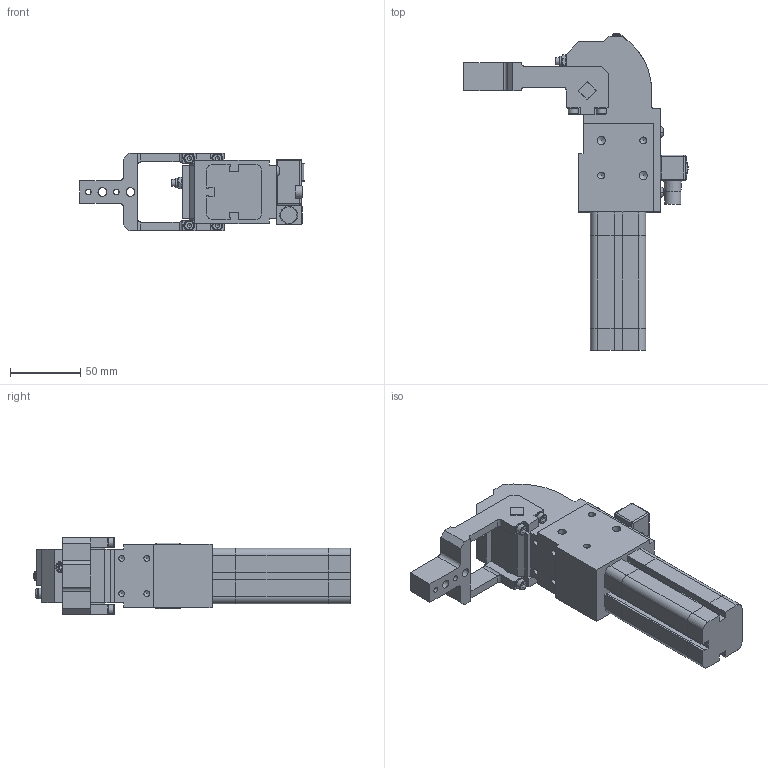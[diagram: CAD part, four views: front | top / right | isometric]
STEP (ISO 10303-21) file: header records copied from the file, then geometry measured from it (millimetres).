
FILE_DESCRIPTION(/* description */ (''),/* implementation_level */ '2;1');
FILE_NAME(/* name */ 'S:\Tom\INVENTOR FILES\AUTOMOTIVE\CLAMPS\XSM 25 HO\SAT FILES\MODEL CYLINDER UPDATE 030217\sats\XSM125_1.stp',/* time_stamp */ '2017-02-06T16:50:57+00:00',/* author */ ('carl'),/* organization */ (''),/* preprocessor_version */ 'ST-DEVELOPER v16.1',/* originating_system */ 'Autodesk Inventor 2016',/* authorisation */ '');
FILE_SCHEMA (('AUTOMOTIVE_DESIGN { 1 0 10303 214 3 1 1 }'));
Length unit declared in the file: millimetre
Products named in the file (4): XSM125_1_1; XSM125_1_2; XSM125_1_3; XSM125_1
Assembly tree (3 placements, depth 2):
  XSM125_1
    XSM125_1_1
    XSM125_1_2
    XSM125_1_3
Bounding box: 159.96 x 226.05 x 55.59 mm (x, y, z)
Volume: 475493 mm3; surface area: 73999.9 mm2
Topology: 3 solids, 4 shells, 461 faces, 1163 edges, 718 vertices
Faces by surface type: plane 314, cylinder 96, cone 29, bspline 8, sphere 8, torus 6
Full cylindrical faces by diameter (mm): 0.7 x4, 4 x7, 4.134 x4, 4.959 x4, 5 x1, 6 x5, 6.2 x2, 6.9 x1, 7 x4, 7.579 x1, 7.6 x4, 8.5 x1, 8.566 x2, 10.7 x1, 11.7 x1, 12 x2, 20 x2
Entity records: 13201 total; most frequent: CARTESIAN_POINT 2754, DIRECTION 2139, ORIENTED_EDGE 2066, EDGE_CURVE 1033, AXIS2_PLACEMENT_3D 722, LINE 695, VECTOR 695, VERTEX_POINT 675
